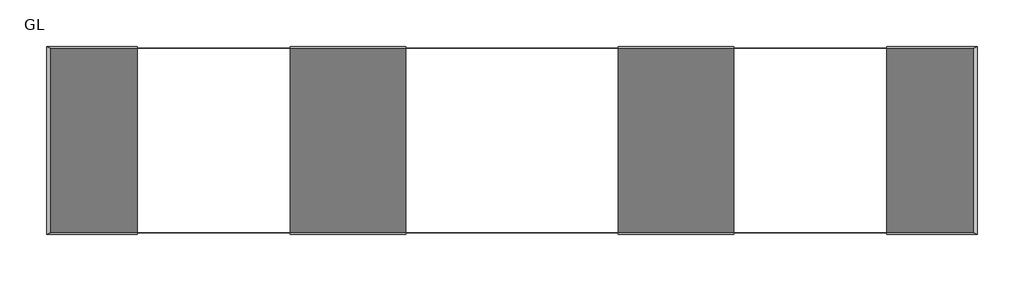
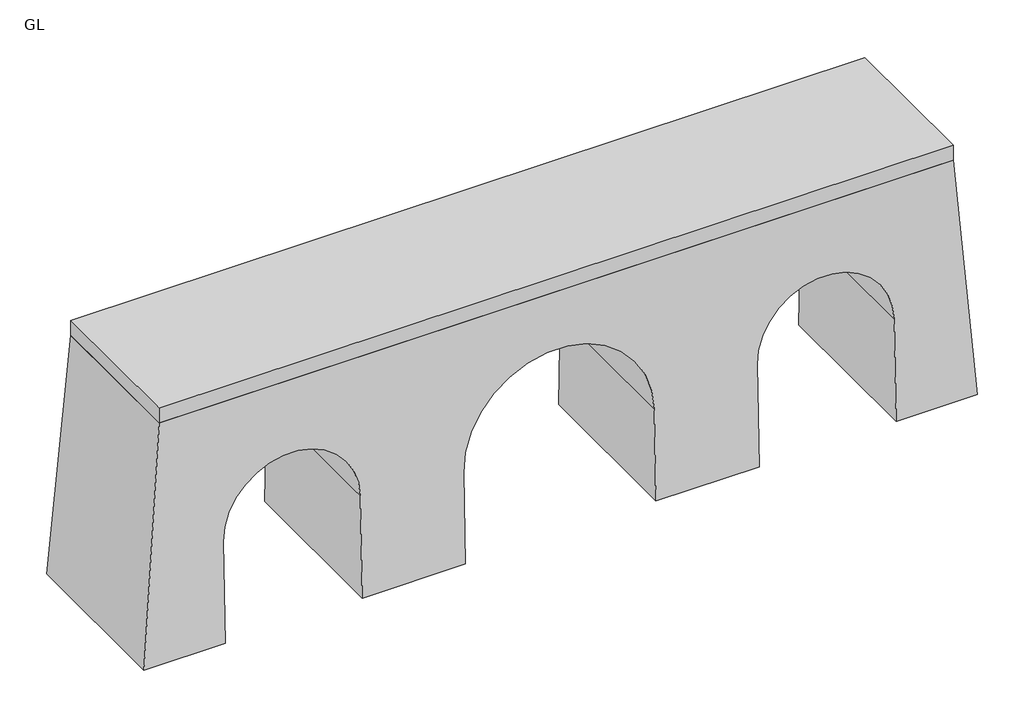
# One storey: 1 proxy.
"""IFC4 building model written with IfcOpenShell, lengths in millimetres."""

from ifc_helpers import new_model, si_unit, frame, origin, place, context, project, spatial, polyline, ellipse_curve, outline, extrude, element, save
from ifc_brep_helpers import plane_surface, revolved_surface, advanced_brep

model = new_model("IFC4")

# Units and contexts
model_context = context("Model", 3, world=origin())
ifc_project = project(units=[si_unit("LENGTHUNIT", "METRE", prefix="MILLI")], contexts=[model_context])

# Site, building, storey
site = spatial("IfcSite", under=ifc_project)
building = spatial("IfcBuilding", under=site)
storey = spatial("IfcBuildingStorey", under=building, Name="GL", Elevation=0.0)

# Proxy
placement = place(None, origin())
element("IfcBuildingElementProxy", 1, Name="量體 1 : 量體 1", ObjectType="量體 1 : 量體 1", at=placement, inside=storey, context=model_context, shape_type="SolidModel", body=[
    extrude(outline(polyline([(10134.5714762, -2466.2980256), (-9865.4285238, -2466.2980256), (-9865.4285238, 1383.7019747), (10134.5714762, 1383.7019747), (10134.5714762, -2466.2980256)])), frame((0.0, 0.0, 6299.9999997), z_axis=(0.0, 0.0, 1.0), x_axis=(1.0, 0.0, 0.0)), (0.0, 0.0, 1.0), 400.0000002),
    advanced_brep(
    [(10134.5714762, 1383.7019747, 6299.9999997), (-9865.4285238, 1383.7019747, 6299.9999997), (-9865.4285238, -2466.2980256, 6299.9999997), (10134.5714762, -2466.2980256, 6299.9999997), (10634.5714763, 1583.7019748, 0.0), (10634.5714763, -2666.2980252, 0.0), (8584.5714763, -2666.2980252, 0.0), (8584.5714763, 1583.7019748, 0.0), (-10365.4285237, -2666.2980252, 0.0), (-10365.4285237, 1583.7019748, 0.0), (-8315.4285237, 1583.7019748, 0.0), (-8315.4285237, -2666.2980252, 0.0), (-4865.4285237, 1583.7019748, 0.0), (-2265.4285237, 1583.7019748, 0.0), (-2265.4285237, -2666.2980252, 0.0), (-4865.4285237, -2666.2980252, 0.0), (2534.5714763, 1583.7019748, 0.0), (5134.5714763, 1583.7019748, 0.0), (5134.5714763, -2666.2980252, 0.0), (2534.5714763, -2666.2980252, 0.0), (8584.5714763, 1498.7813398, 2675.0), (5134.5714763, 1498.7813398, 2675.0), (2534.5714763, 1507.5114986, 2399.9999998), (-2265.4285237, 1507.5114986, 2399.9999998), (-4865.4285237, 1498.7813398, 2674.9999998), (-8315.4285237, 1498.7813398, 2674.9999998), (-8315.4285237, -2581.3773904, 2674.9999998), (-4865.4285237, -2581.3773904, 2674.9999998), (-2265.4285237, -2590.1075492, 2399.9999998), (2534.5714763, -2590.1075492, 2399.9999998), (5134.5714763, -2581.3773904, 2675.0), (8584.5714763, -2581.3773904, 2675.0)],
    [
        (0, 1),
        (1, 2),
        (2, 3),
        (3, 0),
        (4, 5),
        (5, 6),
        (6, 7),
        (7, 4),
        (8, 9),
        (9, 10),
        (10, 11),
        (11, 8),
        (12, 13),
        (13, 14),
        (14, 15),
        (15, 12),
        (16, 17),
        (17, 18),
        (18, 19),
        (19, 16),
        (0, 4),
        (7, 20),
        (20, 21, ellipse_curve(frame((6859.5714763, 1498.7813398, 2675.0), z_axis=(0.0, -0.9994964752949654, -0.03173004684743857), x_axis=(0.0, 0.031730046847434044, -0.9994964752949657)), 1725.8690177, 1725.0)),
        (21, 17),
        (16, 22),
        (22, 23, ellipse_curve(frame((134.5714763, 1507.5114986, 2399.9999998), z_axis=(0.0, -0.9994964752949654, -0.03173004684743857), x_axis=(0.0, 0.031730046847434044, -0.9994964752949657)), 2401.2090681, 2400.0)),
        (23, 13),
        (12, 24),
        (24, 25, ellipse_curve(frame((-6590.4285237, 1498.7813398, 2674.9999998), z_axis=(0.0, -0.9994964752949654, -0.03173004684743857), x_axis=(0.0, 0.031730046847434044, -0.9994964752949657)), 1725.8690177, 1725.0)),
        (25, 10),
        (9, 1),
        (8, 2),
        (11, 26),
        (26, 27, ellipse_curve(frame((-6590.4285237, -2581.3773904, 2674.9999998), z_axis=(0.0, 0.9994964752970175, -0.03173004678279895), x_axis=(0.0, 0.03173004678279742, 0.9994964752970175)), 1725.8690177, 1725.0)),
        (27, 15),
        (14, 28),
        (28, 29, ellipse_curve(frame((134.5714763, -2590.1075492, 2399.9999998), z_axis=(0.0, 0.9994964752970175, -0.03173004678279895), x_axis=(0.0, 0.03173004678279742, 0.9994964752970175)), 2401.2090681, 2400.0)),
        (29, 19),
        (18, 30),
        (30, 31, ellipse_curve(frame((6859.5714763, -2581.3773904, 2675.0), z_axis=(0.0, 0.9994964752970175, -0.03173004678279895), x_axis=(0.0, 0.03173004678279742, 0.9994964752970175)), 1725.8690177, 1725.0)),
        (31, 6),
        (5, 3),
        (26, 25),
        (24, 27),
        (28, 23),
        (22, 29),
        (30, 21),
        (20, 31),
    ],
    [
        plane_surface(frame((134.5714762, -541.2980254, 6299.9999997), z_axis=(0.0, 0.0, 1.0), x_axis=(-1.0, 0.0, 0.0))),
        plane_surface(frame((134.5714763, -541.2980252, 0.0), z_axis=(0.0, 0.0, -1.0), x_axis=(-1.0, 0.0, 0.0))),
        plane_surface(frame((134.5714763, 1583.7019748, 0.0), z_axis=(0.0, 0.9994964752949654, 0.03173004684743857), x_axis=(-1.0, 0.0, 0.0))),
        plane_surface(frame((-10365.4285237, -541.2980252, 0.0), z_axis=(-0.9968653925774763, 0.0, 0.07911630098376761), x_axis=(0.0, -1.0, 0.0))),
        plane_surface(frame((134.5714763, -2666.2980252, 0.0), z_axis=(0.0, -0.9994964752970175, 0.03173004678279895), x_axis=(1.0, 0.0, 0.0))),
        plane_surface(frame((10634.5714763, -541.2980252, 0.0), z_axis=(0.996865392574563, 0.0, 0.07911630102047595), x_axis=(0.0, 1.0, 0.0))),
        revolved_surface(polyline([(-4865.4285237, 1553.5432445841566, 2674.9999998), (-4865.4285237, -2636.1392950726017, 2674.9999998)]), (-6590.4285237, -2666.2980254, 2674.9999998), (0.0, 1.0, 0.0)),
        plane_surface(frame((-4865.4285237, 1583.7019746, 2674.9999998), z_axis=(-1.0, 0.0, 0.0), x_axis=(0.0, -1.0, 0.0))),
        plane_surface(frame((-8315.4285237, 1583.7019746, 0.0), z_axis=(1.0, 0.0, 1.904712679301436e-11), x_axis=(0.0, -1.0, 0.0))),
        revolved_surface(polyline([(2534.5714763, 1583.7019748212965, 2399.9999998), (2534.5714763, -2666.2980252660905, 2399.9999998)]), (134.5714763, -2666.2980254, 2399.9999998), (0.0, 1.0, 0.0)),
        plane_surface(frame((2534.5714763, 1583.7019746, 2399.9999998), z_axis=(-1.0, 0.0, 0.0), x_axis=(0.0, -1.0, 0.0))),
        plane_surface(frame((-2265.4285237, 1583.7019746, 0.0), z_axis=(1.0, 0.0, 1.4471616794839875e-11), x_axis=(0.0, -1.0, 0.0))),
        revolved_surface(polyline([(8584.5714763, 1553.5432445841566, 2675.0), (8584.5714763, -2636.1392950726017, 2675.0)]), (6859.5714763, -2666.2980254, 2675.0), (0.0, 1.0, 0.0)),
        plane_surface(frame((8584.5714763, 1583.7019746, 2675.0), z_axis=(-1.0, 0.0, 0.0), x_axis=(0.0, -1.0, 0.0))),
        plane_surface(frame((5134.5714763, 1583.7019746, 0.0), z_axis=(1.0, 0.0, 1.905036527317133e-11), x_axis=(0.0, -1.0, 0.0))),
    ],
    [
        (0, [[1, 2, 3, 4]]),
        (1, [[5, 6, 7, 8]]),
        (1, [[9, 10, 11, 12]]),
        (1, [[13, 14, 15, 16]]),
        (1, [[17, 18, 19, 20]]),
        (2, [[-1, 21, -8, 22, 23, 24, -17, 25, 26, 27, -13, 28, 29, 30, -10, 31]]),
        (3, [[-2, -31, -9, 32]]),
        (4, [[-3, -32, -12, 33, 34, 35, -15, 36, 37, 38, -19, 39, 40, 41, -6, 42]]),
        (5, [[-4, -42, -5, -21]]),
        (6, [[43, -29, 44, -34]]),
        (7, [[-44, -28, -16, -35]]),
        (8, [[-43, -33, -11, -30]]),
        (9, [[45, -26, 46, -37]]),
        (10, [[-46, -25, -20, -38]]),
        (11, [[-45, -36, -14, -27]]),
        (12, [[47, -23, 48, -40]]),
        (13, [[-48, -22, -7, -41]]),
        (14, [[-47, -39, -18, -24]]),
    ],
),
])

save(model, "model.ifc")
